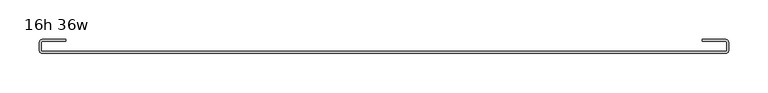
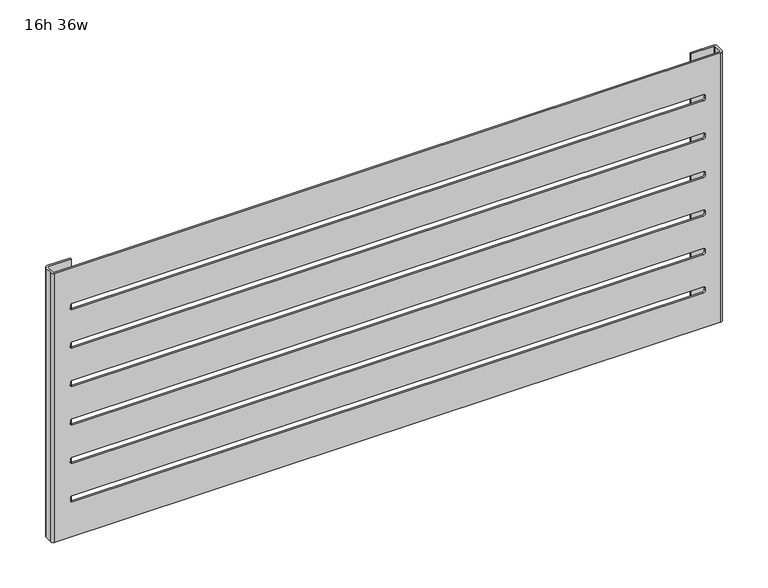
"""IFC4 building model written with IfcOpenShell, lengths in millimetres: furniture geometry, Haworth_BeHold_Accessory_SlatRail : 16h 36w."""

from ifc_helpers import new_model, si_unit, frame, origin, place, context, project, spatial, polyline, circle_curve, source, transform, mapped, element, save
from ifc_brep_helpers import plane_surface, cylinder_surface, revolved_surface, advanced_brep


def furniture_16h_36w_b10e970e(model_context):
    return source(origin(), model_context, "Body", "AdvancedBrep", [
        advanced_brep(
        [(276.0322509, 285.75, 1290.6375), (-589.7505616, 285.75, 1290.6375), (-590.7427491, 286.7421875, 1290.6375), (-590.7427491, 297.4539983, 1290.6375), (-589.7467474, 298.45, 1290.6375), (-559.7828171, 298.45, 1290.6375), (-559.7828171, 300.83125, 1290.6375), (-589.7865641, 300.83125, 1290.6375), (-593.1239991, 297.493815, 1290.6375), (-593.1239991, 286.7421875, 1290.6375), (-589.7505616, 283.36875, 1290.6375), (276.0322509, 283.36875, 1290.6375), (279.4056884, 286.7421875, 1290.6375), (279.4056884, 297.493815, 1290.6375), (276.0682534, 300.83125, 1290.6375), (246.0645065, 300.83125, 1290.6375), (246.0645065, 298.45, 1290.6375), (276.0284367, 298.45, 1290.6375), (277.0244384, 297.4539983, 1290.6375), (277.0244384, 286.7421875, 1290.6375), (276.0322509, 285.75, 920.75), (277.0244384, 286.7421875, 920.75), (277.0244384, 297.4539983, 920.75), (276.0284367, 298.45, 920.75), (246.0645065, 298.45, 920.75), (246.0645065, 300.83125, 920.75), (276.0682534, 300.83125, 920.75), (279.4056884, 297.493815, 920.75), (279.4056884, 286.7421875, 920.75), (276.0322509, 283.36875, 920.75), (-589.7505616, 283.36875, 920.75), (-593.1239991, 286.7421875, 920.75), (-593.1239991, 297.493815, 920.75), (-589.7865641, 300.83125, 920.75), (-559.7828171, 300.83125, 920.75), (-559.7828171, 298.45, 920.75), (-589.7467474, 298.45, 920.75), (-590.7427491, 297.4539983, 920.75), (-590.7427491, 286.7421875, 920.75), (-589.7505616, 285.75, 920.75), (-566.9137772, 283.36875, 1127.1885438), (-569.2950272, 283.36875, 1129.5697938), (-569.2950272, 283.36875, 1133.0622951), (-566.9137772, 283.36875, 1135.4435451), (253.1954665, 283.36875, 1135.4435451), (255.5767165, 283.36875, 1133.0622951), (255.5767165, 283.36875, 1129.5697938), (253.1954665, 283.36875, 1127.1885438), (-566.9137772, 283.36875, 1074.3565443), (-569.2950272, 283.36875, 1076.7377943), (-569.2950272, 283.36875, 1080.2302955), (-566.9137772, 283.36875, 1082.6115455), (253.1954665, 283.36875, 1082.6115455), (255.5767165, 283.36875, 1080.2302955), (255.5767165, 283.36875, 1076.7377943), (253.1954665, 283.36875, 1074.3565443), (-566.9137772, 283.36875, 1021.5245447), (-569.2950272, 283.36875, 1023.9057947), (-569.2950272, 283.36875, 1027.3982959), (-566.9137772, 283.36875, 1029.7795459), (253.1954665, 283.36875, 1029.7795459), (255.5767165, 283.36875, 1027.3982959), (255.5767165, 283.36875, 1023.9057947), (253.1954665, 283.36875, 1021.5245447), (-566.9137772, 283.36875, 968.6925428), (-569.2950272, 283.36875, 971.0737928), (-569.2950272, 283.36875, 974.5662941), (-566.9137772, 283.36875, 976.9475441), (253.1954665, 283.36875, 976.9475441), (255.5767165, 283.36875, 974.5662941), (255.5767165, 283.36875, 971.0737928), (253.1954665, 283.36875, 968.6925428), (-566.9137772, 283.36875, 1180.020548), (-569.2950272, 283.36875, 1182.401798), (-569.2950272, 283.36875, 1185.8942992), (-566.9137772, 283.36875, 1188.2755492), (253.1954665, 283.36875, 1188.2755492), (255.5767165, 283.36875, 1185.8942992), (255.5767165, 283.36875, 1182.401798), (253.1954665, 283.36875, 1180.020548), (-566.9137772, 283.36875, 1232.8525521), (-569.2950272, 283.36875, 1235.2338021), (-569.2950272, 283.36875, 1238.7263033), (-566.9137772, 283.36875, 1241.1075533), (253.1954665, 283.36875, 1241.1075533), (255.5767165, 283.36875, 1238.7263033), (255.5767165, 283.36875, 1235.2338021), (253.1954665, 283.36875, 1232.8525521), (253.1954665, 285.75, 1127.1885438), (255.5767165, 285.75, 1129.5697938), (255.5767165, 285.75, 1133.0622951), (253.1954665, 285.75, 1135.4435451), (-566.9137772, 285.75, 1135.4435451), (-569.2950272, 285.75, 1133.0622951), (-569.2950272, 285.75, 1129.5697938), (-566.9137772, 285.75, 1127.1885438), (253.1954665, 285.75, 1074.3565443), (255.5767165, 285.75, 1076.7377943), (255.5767165, 285.75, 1080.2302955), (253.1954665, 285.75, 1082.6115455), (-566.9137772, 285.75, 1082.6115455), (-569.2950272, 285.75, 1080.2302955), (-569.2950272, 285.75, 1076.7377943), (-566.9137772, 285.75, 1074.3565443), (253.1954665, 285.75, 1021.5245447), (255.5767165, 285.75, 1023.9057947), (255.5767165, 285.75, 1027.3982959), (253.1954665, 285.75, 1029.7795459), (-566.9137772, 285.75, 1029.7795459), (-569.2950272, 285.75, 1027.3982959), (-569.2950272, 285.75, 1023.9057947), (-566.9137772, 285.75, 1021.5245447), (253.1954665, 285.75, 968.6925428), (255.5767165, 285.75, 971.0737928), (255.5767165, 285.75, 974.5662941), (253.1954665, 285.75, 976.9475441), (-566.9137772, 285.75, 976.9475441), (-569.2950272, 285.75, 974.5662941), (-569.2950272, 285.75, 971.0737928), (-566.9137772, 285.75, 968.6925428), (253.1954665, 285.75, 1180.020548), (255.5767165, 285.75, 1182.401798), (255.5767165, 285.75, 1185.8942992), (253.1954665, 285.75, 1188.2755492), (-566.9137772, 285.75, 1188.2755492), (-569.2950272, 285.75, 1185.8942992), (-569.2950272, 285.75, 1182.401798), (-566.9137772, 285.75, 1180.020548), (253.1954665, 285.75, 1232.8525521), (255.5767165, 285.75, 1235.2338021), (255.5767165, 285.75, 1238.7263033), (253.1954665, 285.75, 1241.1075533), (-566.9137772, 285.75, 1241.1075533), (-569.2950272, 285.75, 1238.7263033), (-569.2950272, 285.75, 1235.2338021), (-566.9137772, 285.75, 1232.8525521)],
        [
            (0, 1),
            (1, 2, circle_curve(frame((-589.7505616, 286.7421875, 1290.6375), z_axis=(0.0, 0.0, -1.0), x_axis=(0.0, 1.0, 0.0)), 0.9921875)),
            (2, 3),
            (3, 4, circle_curve(frame((-589.7467474, 297.4539983, 1290.6375), z_axis=(0.0, 0.0, -1.0), x_axis=(0.0, 1.0, 0.0)), 0.9960017)),
            (4, 5),
            (5, 6),
            (6, 7),
            (7, 8, circle_curve(frame((-589.7865641, 297.493815, 1290.6375), z_axis=(0.0, 0.0, 1.0), x_axis=(0.0, 1.0, 0.0)), 3.337435)),
            (8, 9),
            (9, 10, circle_curve(frame((-589.7505616, 286.7421875, 1290.6375), z_axis=(0.0, 0.0, 1.0), x_axis=(0.0, 1.0, 0.0)), 3.3734375)),
            (10, 11),
            (11, 12, circle_curve(frame((276.0322509, 286.7421875, 1290.6375), z_axis=(0.0, 0.0, 1.0), x_axis=(0.0, 1.0, 0.0)), 3.3734375)),
            (12, 13),
            (13, 14, circle_curve(frame((276.0682534, 297.493815, 1290.6375), z_axis=(0.0, 0.0, 1.0), x_axis=(0.0, 1.0, 0.0)), 3.337435)),
            (14, 15),
            (15, 16),
            (16, 17),
            (17, 18, circle_curve(frame((276.0284367, 297.4539983, 1290.6375), z_axis=(0.0, 0.0, -1.0), x_axis=(0.0, 1.0, 0.0)), 0.9960017)),
            (18, 19),
            (19, 0, circle_curve(frame((276.0322509, 286.7421875, 1290.6375), z_axis=(0.0, 0.0, -1.0), x_axis=(0.0, 1.0, 0.0)), 0.9921875)),
            (20, 21, circle_curve(frame((276.0322509, 286.7421875, 920.75), z_axis=(0.0, 0.0, 1.0), x_axis=(0.0, 1.0, 0.0)), 0.9921875)),
            (21, 22),
            (22, 23, circle_curve(frame((276.0284367, 297.4539983, 920.75), z_axis=(0.0, 0.0, 1.0), x_axis=(0.0, 1.0, 0.0)), 0.9960017)),
            (23, 24),
            (24, 25),
            (25, 26),
            (26, 27, circle_curve(frame((276.0682534, 297.493815, 920.75), z_axis=(0.0, 0.0, -1.0), x_axis=(0.0, 1.0, 0.0)), 3.337435)),
            (27, 28),
            (28, 29, circle_curve(frame((276.0322509, 286.7421875, 920.75), z_axis=(0.0, 0.0, -1.0), x_axis=(0.0, 1.0, 0.0)), 3.3734375)),
            (29, 30),
            (30, 31, circle_curve(frame((-589.7505616, 286.7421875, 920.75), z_axis=(0.0, 0.0, -1.0), x_axis=(0.0, 1.0, 0.0)), 3.3734375)),
            (31, 32),
            (32, 33, circle_curve(frame((-589.7865641, 297.493815, 920.75), z_axis=(0.0, 0.0, -1.0), x_axis=(0.0, 1.0, 0.0)), 3.337435)),
            (33, 34),
            (34, 35),
            (35, 36),
            (36, 37, circle_curve(frame((-589.7467474, 297.4539983, 920.75), z_axis=(0.0, 0.0, 1.0), x_axis=(0.0, 1.0, 0.0)), 0.9960017)),
            (37, 38),
            (38, 39, circle_curve(frame((-589.7505616, 286.7421875, 920.75), z_axis=(0.0, 0.0, 1.0), x_axis=(0.0, 1.0, 0.0)), 0.9921875)),
            (39, 20),
            (19, 21),
            (20, 0),
            (18, 22),
            (17, 23),
            (16, 24),
            (15, 25),
            (14, 26),
            (13, 27),
            (12, 28),
            (11, 29),
            (10, 30),
            (40, 41, circle_curve(frame((-566.9137772, 283.36875, 1129.5697938), z_axis=(0.0, 1.0, 0.0), x_axis=(1.0, 0.0, 0.0)), 2.38125)),
            (41, 42),
            (42, 43, circle_curve(frame((-566.9137772, 283.36875, 1133.0622951), z_axis=(0.0, 1.0, 0.0), x_axis=(1.0, 0.0, 0.0)), 2.38125)),
            (43, 44),
            (44, 45, circle_curve(frame((253.1954665, 283.36875, 1133.0622951), z_axis=(0.0, 1.0, 0.0), x_axis=(1.0, 0.0, 0.0)), 2.38125)),
            (45, 46),
            (46, 47, circle_curve(frame((253.1954665, 283.36875, 1129.5697938), z_axis=(0.0, 1.0, 0.0), x_axis=(1.0, 0.0, 0.0)), 2.38125)),
            (47, 40),
            (48, 49, circle_curve(frame((-566.9137772, 283.36875, 1076.7377943), z_axis=(0.0, 1.0, 0.0), x_axis=(1.0, 0.0, 0.0)), 2.38125)),
            (49, 50),
            (50, 51, circle_curve(frame((-566.9137772, 283.36875, 1080.2302955), z_axis=(0.0, 1.0, 0.0), x_axis=(1.0, 0.0, 0.0)), 2.38125)),
            (51, 52),
            (52, 53, circle_curve(frame((253.1954665, 283.36875, 1080.2302955), z_axis=(0.0, 1.0, 0.0), x_axis=(1.0, 0.0, 0.0)), 2.38125)),
            (53, 54),
            (54, 55, circle_curve(frame((253.1954665, 283.36875, 1076.7377943), z_axis=(0.0, 1.0, 0.0), x_axis=(1.0, 0.0, 0.0)), 2.38125)),
            (55, 48),
            (56, 57, circle_curve(frame((-566.9137772, 283.36875, 1023.9057947), z_axis=(0.0, 1.0, 0.0), x_axis=(1.0, 0.0, 0.0)), 2.38125)),
            (57, 58),
            (58, 59, circle_curve(frame((-566.9137772, 283.36875, 1027.3982959), z_axis=(0.0, 1.0, 0.0), x_axis=(1.0, 0.0, 0.0)), 2.38125)),
            (59, 60),
            (60, 61, circle_curve(frame((253.1954665, 283.36875, 1027.3982959), z_axis=(0.0, 1.0, 0.0), x_axis=(1.0, 0.0, 0.0)), 2.38125)),
            (61, 62),
            (62, 63, circle_curve(frame((253.1954665, 283.36875, 1023.9057947), z_axis=(0.0, 1.0, 0.0), x_axis=(1.0, 0.0, 0.0)), 2.38125)),
            (63, 56),
            (64, 65, circle_curve(frame((-566.9137772, 283.36875, 971.0737928), z_axis=(0.0, 1.0, 0.0), x_axis=(1.0, 0.0, 0.0)), 2.38125)),
            (65, 66),
            (66, 67, circle_curve(frame((-566.9137772, 283.36875, 974.5662941), z_axis=(0.0, 1.0, 0.0), x_axis=(1.0, 0.0, 0.0)), 2.38125)),
            (67, 68),
            (68, 69, circle_curve(frame((253.1954665, 283.36875, 974.5662941), z_axis=(0.0, 1.0, 0.0), x_axis=(1.0, 0.0, 0.0)), 2.38125)),
            (69, 70),
            (70, 71, circle_curve(frame((253.1954665, 283.36875, 971.0737928), z_axis=(0.0, 1.0, 0.0), x_axis=(1.0, 0.0, 0.0)), 2.38125)),
            (71, 64),
            (72, 73, circle_curve(frame((-566.9137772, 283.36875, 1182.401798), z_axis=(0.0, 1.0, 0.0), x_axis=(1.0, 0.0, 0.0)), 2.38125)),
            (73, 74),
            (74, 75, circle_curve(frame((-566.9137772, 283.36875, 1185.8942992), z_axis=(0.0, 1.0, 0.0), x_axis=(1.0, 0.0, 0.0)), 2.38125)),
            (75, 76),
            (76, 77, circle_curve(frame((253.1954665, 283.36875, 1185.8942992), z_axis=(0.0, 1.0, 0.0), x_axis=(1.0, 0.0, 0.0)), 2.38125)),
            (77, 78),
            (78, 79, circle_curve(frame((253.1954665, 283.36875, 1182.401798), z_axis=(0.0, 1.0, 0.0), x_axis=(1.0, 0.0, 0.0)), 2.38125)),
            (79, 72),
            (80, 81, circle_curve(frame((-566.9137772, 283.36875, 1235.2338021), z_axis=(0.0, 1.0, 0.0), x_axis=(1.0, 0.0, 0.0)), 2.38125)),
            (81, 82),
            (82, 83, circle_curve(frame((-566.9137772, 283.36875, 1238.7263033), z_axis=(0.0, 1.0, 0.0), x_axis=(1.0, 0.0, 0.0)), 2.38125)),
            (83, 84),
            (84, 85, circle_curve(frame((253.1954665, 283.36875, 1238.7263033), z_axis=(0.0, 1.0, 0.0), x_axis=(1.0, 0.0, 0.0)), 2.38125)),
            (85, 86),
            (86, 87, circle_curve(frame((253.1954665, 283.36875, 1235.2338021), z_axis=(0.0, 1.0, 0.0), x_axis=(1.0, 0.0, 0.0)), 2.38125)),
            (87, 80),
            (9, 31),
            (8, 32),
            (7, 33),
            (6, 34),
            (5, 35),
            (4, 36),
            (3, 37),
            (2, 38),
            (1, 39),
            (88, 89, circle_curve(frame((253.1954665, 285.75, 1129.5697938), z_axis=(0.0, -1.0, 0.0), x_axis=(1.0, 0.0, 0.0)), 2.38125)),
            (89, 90),
            (90, 91, circle_curve(frame((253.1954665, 285.75, 1133.0622951), z_axis=(0.0, -1.0, 0.0), x_axis=(1.0, 0.0, 0.0)), 2.38125)),
            (91, 92),
            (92, 93, circle_curve(frame((-566.9137772, 285.75, 1133.0622951), z_axis=(0.0, -1.0, 0.0), x_axis=(1.0, 0.0, 0.0)), 2.38125)),
            (93, 94),
            (94, 95, circle_curve(frame((-566.9137772, 285.75, 1129.5697938), z_axis=(0.0, -1.0, 0.0), x_axis=(1.0, 0.0, 0.0)), 2.38125)),
            (95, 88),
            (96, 97, circle_curve(frame((253.1954665, 285.75, 1076.7377943), z_axis=(0.0, -1.0, 0.0), x_axis=(1.0, 0.0, 0.0)), 2.38125)),
            (97, 98),
            (98, 99, circle_curve(frame((253.1954665, 285.75, 1080.2302955), z_axis=(0.0, -1.0, 0.0), x_axis=(1.0, 0.0, 0.0)), 2.38125)),
            (99, 100),
            (100, 101, circle_curve(frame((-566.9137772, 285.75, 1080.2302955), z_axis=(0.0, -1.0, 0.0), x_axis=(1.0, 0.0, 0.0)), 2.38125)),
            (101, 102),
            (102, 103, circle_curve(frame((-566.9137772, 285.75, 1076.7377943), z_axis=(0.0, -1.0, 0.0), x_axis=(1.0, 0.0, 0.0)), 2.38125)),
            (103, 96),
            (104, 105, circle_curve(frame((253.1954665, 285.75, 1023.9057947), z_axis=(0.0, -1.0, 0.0), x_axis=(1.0, 0.0, 0.0)), 2.38125)),
            (105, 106),
            (106, 107, circle_curve(frame((253.1954665, 285.75, 1027.3982959), z_axis=(0.0, -1.0, 0.0), x_axis=(1.0, 0.0, 0.0)), 2.38125)),
            (107, 108),
            (108, 109, circle_curve(frame((-566.9137772, 285.75, 1027.3982959), z_axis=(0.0, -1.0, 0.0), x_axis=(1.0, 0.0, 0.0)), 2.38125)),
            (109, 110),
            (110, 111, circle_curve(frame((-566.9137772, 285.75, 1023.9057947), z_axis=(0.0, -1.0, 0.0), x_axis=(1.0, 0.0, 0.0)), 2.38125)),
            (111, 104),
            (112, 113, circle_curve(frame((253.1954665, 285.75, 971.0737928), z_axis=(0.0, -1.0, 0.0), x_axis=(1.0, 0.0, 0.0)), 2.38125)),
            (113, 114),
            (114, 115, circle_curve(frame((253.1954665, 285.75, 974.5662941), z_axis=(0.0, -1.0, 0.0), x_axis=(1.0, 0.0, 0.0)), 2.38125)),
            (115, 116),
            (116, 117, circle_curve(frame((-566.9137772, 285.75, 974.5662941), z_axis=(0.0, -1.0, 0.0), x_axis=(1.0, 0.0, 0.0)), 2.38125)),
            (117, 118),
            (118, 119, circle_curve(frame((-566.9137772, 285.75, 971.0737928), z_axis=(0.0, -1.0, 0.0), x_axis=(1.0, 0.0, 0.0)), 2.38125)),
            (119, 112),
            (120, 121, circle_curve(frame((253.1954665, 285.75, 1182.401798), z_axis=(0.0, -1.0, 0.0), x_axis=(1.0, 0.0, 0.0)), 2.38125)),
            (121, 122),
            (122, 123, circle_curve(frame((253.1954665, 285.75, 1185.8942992), z_axis=(0.0, -1.0, 0.0), x_axis=(1.0, 0.0, 0.0)), 2.38125)),
            (123, 124),
            (124, 125, circle_curve(frame((-566.9137772, 285.75, 1185.8942992), z_axis=(0.0, -1.0, 0.0), x_axis=(1.0, 0.0, 0.0)), 2.38125)),
            (125, 126),
            (126, 127, circle_curve(frame((-566.9137772, 285.75, 1182.401798), z_axis=(0.0, -1.0, 0.0), x_axis=(1.0, 0.0, 0.0)), 2.38125)),
            (127, 120),
            (128, 129, circle_curve(frame((253.1954665, 285.75, 1235.2338021), z_axis=(0.0, -1.0, 0.0), x_axis=(1.0, 0.0, 0.0)), 2.38125)),
            (129, 130),
            (130, 131, circle_curve(frame((253.1954665, 285.75, 1238.7263033), z_axis=(0.0, -1.0, 0.0), x_axis=(1.0, 0.0, 0.0)), 2.38125)),
            (131, 132),
            (132, 133, circle_curve(frame((-566.9137772, 285.75, 1238.7263033), z_axis=(0.0, -1.0, 0.0), x_axis=(1.0, 0.0, 0.0)), 2.38125)),
            (133, 134),
            (134, 135, circle_curve(frame((-566.9137772, 285.75, 1235.2338021), z_axis=(0.0, -1.0, 0.0), x_axis=(1.0, 0.0, 0.0)), 2.38125)),
            (135, 128),
            (95, 40),
            (47, 88),
            (94, 41),
            (93, 42),
            (92, 43),
            (91, 44),
            (90, 45),
            (89, 46),
            (103, 48),
            (55, 96),
            (102, 49),
            (101, 50),
            (100, 51),
            (99, 52),
            (98, 53),
            (97, 54),
            (111, 56),
            (63, 104),
            (110, 57),
            (109, 58),
            (108, 59),
            (107, 60),
            (106, 61),
            (105, 62),
            (119, 64),
            (71, 112),
            (118, 65),
            (117, 66),
            (116, 67),
            (115, 68),
            (114, 69),
            (113, 70),
            (127, 72),
            (79, 120),
            (126, 73),
            (125, 74),
            (124, 75),
            (123, 76),
            (122, 77),
            (121, 78),
            (135, 80),
            (87, 128),
            (134, 81),
            (133, 82),
            (132, 83),
            (131, 84),
            (130, 85),
            (129, 86),
        ],
        [
            plane_surface(frame((-156.8591553, 292.1, 1290.6375), z_axis=(0.0, 0.0, 1.0), x_axis=(0.0, 1.0, 0.0))),
            plane_surface(frame((-156.8591553, 292.1, 920.75), z_axis=(0.0, 0.0, -1.0), x_axis=(0.0, 1.0, 0.0))),
            revolved_surface(polyline([(276.0322509, 287.734375, 920.75), (276.0322509, 287.734375, 1290.6375)]), (276.0322509, 286.7421875, 1290.6375), (0.0, 0.0, -1.0)),
            plane_surface(frame((277.0244384, 286.7421875, 1290.6375), z_axis=(-1.0, 0.0, 0.0), x_axis=(0.0, 0.0, -1.0))),
            revolved_surface(polyline([(276.0284367, 298.45000000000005, 920.75), (276.0284367, 298.45000000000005, 1290.6375)]), (276.0284367, 297.4539983, 1290.6375), (0.0, 0.0, -1.0)),
            plane_surface(frame((276.0284367, 298.45, 1290.6375), z_axis=(0.0, -1.0, 0.0), x_axis=(0.0, 0.0, -1.0))),
            plane_surface(frame((246.0645065, 298.45, 1290.6375), z_axis=(-1.0, 0.0, 0.0), x_axis=(0.0, 0.0, -1.0))),
            plane_surface(frame((246.0645065, 300.83125, 1290.6375), z_axis=(0.0, 1.0, 0.0), x_axis=(0.0, 0.0, -1.0))),
            cylinder_surface(frame((276.0682534, 297.493815, 1290.6375), z_axis=(0.0, 0.0, 1.0), x_axis=(0.0, 1.0, 0.0)), 3.337435),
            plane_surface(frame((279.4056884, 297.493815, 1290.6375), z_axis=(1.0, 0.0, 0.0), x_axis=(0.0, 0.0, -1.0))),
            cylinder_surface(frame((276.0322509, 286.7421875, 1290.6375), z_axis=(0.0, 0.0, 1.0), x_axis=(0.0, 1.0, 0.0)), 3.3734375),
            plane_surface(frame((276.0322509, 283.36875, 1290.6375), z_axis=(0.0, -1.0, 0.0), x_axis=(0.0, 0.0, -1.0))),
            cylinder_surface(frame((-589.7505616, 286.7421875, 1290.6375), z_axis=(0.0, 0.0, 1.0), x_axis=(0.0, 1.0, 0.0)), 3.3734375),
            plane_surface(frame((-593.1239991, 286.7421875, 1290.6375), z_axis=(-1.0, 0.0, 0.0), x_axis=(0.0, 0.0, -1.0))),
            cylinder_surface(frame((-589.7865641, 297.493815, 1290.6375), z_axis=(0.0, 0.0, 1.0), x_axis=(0.0, 1.0, 0.0)), 3.337435),
            plane_surface(frame((-589.7865641, 300.83125, 1290.6375), z_axis=(0.0, 1.0, 0.0), x_axis=(0.0, 0.0, -1.0))),
            plane_surface(frame((-559.7828171, 300.83125, 1290.6375), z_axis=(1.0, 0.0, 0.0), x_axis=(0.0, 0.0, -1.0))),
            plane_surface(frame((-559.7828171, 298.45, 1290.6375), z_axis=(0.0, -1.0, 0.0), x_axis=(0.0, 0.0, -1.0))),
            revolved_surface(polyline([(-589.7467474, 298.45000000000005, 920.75), (-589.7467474, 298.45000000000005, 1290.6375)]), (-589.7467474, 297.4539983, 1290.6375), (0.0, 0.0, -1.0)),
            plane_surface(frame((-590.7427491, 297.4539983, 1290.6375), z_axis=(1.0, 0.0, 0.0), x_axis=(0.0, 0.0, -1.0))),
            revolved_surface(polyline([(-589.7505616, 287.734375, 920.75), (-589.7505616, 287.734375, 1290.6375)]), (-589.7505616, 286.7421875, 1290.6375), (0.0, 0.0, -1.0)),
            plane_surface(frame((-589.7505616, 285.75, 1290.6375), z_axis=(0.0, 1.0, 0.0), x_axis=(0.0, 0.0, -1.0))),
            plane_surface(frame((253.1954665, 266.7, 1127.1885438), z_axis=(0.0, 0.0, 1.0), x_axis=(0.0, 1.0, 0.0))),
            revolved_surface(polyline([(-564.5325272, 283.36875, 1129.5697938), (-564.5325272, 285.75, 1129.5697938)]), (-566.9137772, 266.7, 1129.5697938), (0.0, -1.0, 0.0)),
            plane_surface(frame((-569.2950272, 266.7, 1129.5697938), z_axis=(1.0, 0.0, 0.0), x_axis=(0.0, 1.0, 0.0))),
            revolved_surface(polyline([(-564.5325272, 283.36875, 1133.0622951), (-564.5325272, 285.75, 1133.0622951)]), (-566.9137772, 266.7, 1133.0622951), (0.0, -1.0, 0.0)),
            plane_surface(frame((-566.9137772, 266.7, 1135.4435451), z_axis=(0.0, 0.0, -1.0), x_axis=(0.0, 1.0, 0.0))),
            revolved_surface(polyline([(255.5767165, 283.36875, 1133.0622951), (255.5767165, 285.75, 1133.0622951)]), (253.1954665, 266.7, 1133.0622951), (0.0, -1.0, 0.0)),
            plane_surface(frame((255.5767165, 266.7, 1133.0622951), z_axis=(-1.0, 0.0, 0.0), x_axis=(0.0, 1.0, 0.0))),
            revolved_surface(polyline([(255.5767165, 283.36875, 1129.5697938), (255.5767165, 285.75, 1129.5697938)]), (253.1954665, 266.7, 1129.5697938), (0.0, -1.0, 0.0)),
            plane_surface(frame((253.1954665, 266.7, 1074.3565443), z_axis=(0.0, 0.0, 1.0), x_axis=(0.0, 1.0, 0.0))),
            revolved_surface(polyline([(-564.5325272, 283.36875, 1076.7377943), (-564.5325272, 285.75, 1076.7377943)]), (-566.9137772, 266.7, 1076.7377943), (0.0, -1.0, 0.0)),
            plane_surface(frame((-569.2950272, 266.7, 1076.7377943), z_axis=(1.0, 0.0, 0.0), x_axis=(0.0, 1.0, 0.0))),
            revolved_surface(polyline([(-564.5325272, 283.36875, 1080.2302955), (-564.5325272, 285.75, 1080.2302955)]), (-566.9137772, 266.7, 1080.2302955), (0.0, -1.0, 0.0)),
            plane_surface(frame((-566.9137772, 266.7, 1082.6115455), z_axis=(0.0, 0.0, -1.0), x_axis=(0.0, 1.0, 0.0))),
            revolved_surface(polyline([(255.5767165, 283.36875, 1080.2302955), (255.5767165, 285.75, 1080.2302955)]), (253.1954665, 266.7, 1080.2302955), (0.0, -1.0, 0.0)),
            plane_surface(frame((255.5767165, 266.7, 1080.2302955), z_axis=(-1.0, 0.0, 0.0), x_axis=(0.0, 1.0, 0.0))),
            revolved_surface(polyline([(255.5767165, 283.36875, 1076.7377943), (255.5767165, 285.75, 1076.7377943)]), (253.1954665, 266.7, 1076.7377943), (0.0, -1.0, 0.0)),
            plane_surface(frame((253.1954665, 266.7, 1021.5245447), z_axis=(0.0, 0.0, 1.0), x_axis=(0.0, 1.0, 0.0))),
            revolved_surface(polyline([(-564.5325272, 283.36875, 1023.9057947), (-564.5325272, 285.75, 1023.9057947)]), (-566.9137772, 266.7, 1023.9057947), (0.0, -1.0, 0.0)),
            plane_surface(frame((-569.2950272, 266.7, 1023.9057947), z_axis=(1.0, 0.0, 0.0), x_axis=(0.0, 1.0, 0.0))),
            revolved_surface(polyline([(-564.5325272, 283.36875, 1027.3982959), (-564.5325272, 285.75, 1027.3982959)]), (-566.9137772, 266.7, 1027.3982959), (0.0, -1.0, 0.0)),
            plane_surface(frame((-566.9137772, 266.7, 1029.7795459), z_axis=(0.0, 0.0, -1.0), x_axis=(0.0, 1.0, 0.0))),
            revolved_surface(polyline([(255.5767165, 283.36875, 1027.3982959), (255.5767165, 285.75, 1027.3982959)]), (253.1954665, 266.7, 1027.3982959), (0.0, -1.0, 0.0)),
            plane_surface(frame((255.5767165, 266.7, 1027.3982959), z_axis=(-1.0, 0.0, 0.0), x_axis=(0.0, 1.0, 0.0))),
            revolved_surface(polyline([(255.5767165, 283.36875, 1023.9057947), (255.5767165, 285.75, 1023.9057947)]), (253.1954665, 266.7, 1023.9057947), (0.0, -1.0, 0.0)),
            plane_surface(frame((253.1954665, 266.7, 968.6925428), z_axis=(0.0, 0.0, 1.0), x_axis=(0.0, 1.0, 0.0))),
            revolved_surface(polyline([(-564.5325272, 283.36875, 971.0737928), (-564.5325272, 285.75, 971.0737928)]), (-566.9137772, 266.7, 971.0737928), (0.0, -1.0, 0.0)),
            plane_surface(frame((-569.2950272, 266.7, 971.0737928), z_axis=(1.0, 0.0, 0.0), x_axis=(0.0, 1.0, 0.0))),
            revolved_surface(polyline([(-564.5325272, 283.36875, 974.5662941), (-564.5325272, 285.75, 974.5662941)]), (-566.9137772, 266.7, 974.5662941), (0.0, -1.0, 0.0)),
            plane_surface(frame((-566.9137772, 266.7, 976.9475441), z_axis=(0.0, 0.0, -1.0), x_axis=(0.0, 1.0, 0.0))),
            revolved_surface(polyline([(255.5767165, 283.36875, 974.5662941), (255.5767165, 285.75, 974.5662941)]), (253.1954665, 266.7, 974.5662941), (0.0, -1.0, 0.0)),
            plane_surface(frame((255.5767165, 266.7, 974.5662941), z_axis=(-1.0, 0.0, 0.0), x_axis=(0.0, 1.0, 0.0))),
            revolved_surface(polyline([(255.5767165, 283.36875, 971.0737928), (255.5767165, 285.75, 971.0737928)]), (253.1954665, 266.7, 971.0737928), (0.0, -1.0, 0.0)),
            plane_surface(frame((253.1954665, 266.7, 1180.020548), z_axis=(0.0, 0.0, 1.0), x_axis=(0.0, 1.0, 0.0))),
            revolved_surface(polyline([(-564.5325272, 283.36875, 1182.401798), (-564.5325272, 285.75, 1182.401798)]), (-566.9137772, 266.7, 1182.401798), (0.0, -1.0, 0.0)),
            plane_surface(frame((-569.2950272, 266.7, 1182.401798), z_axis=(1.0, 0.0, 0.0), x_axis=(0.0, 1.0, 0.0))),
            revolved_surface(polyline([(-564.5325272, 283.36875, 1185.8942992), (-564.5325272, 285.75, 1185.8942992)]), (-566.9137772, 266.7, 1185.8942992), (0.0, -1.0, 0.0)),
            plane_surface(frame((-566.9137772, 266.7, 1188.2755492), z_axis=(0.0, 0.0, -1.0), x_axis=(0.0, 1.0, 0.0))),
            revolved_surface(polyline([(255.5767165, 283.36875, 1185.8942992), (255.5767165, 285.75, 1185.8942992)]), (253.1954665, 266.7, 1185.8942992), (0.0, -1.0, 0.0)),
            plane_surface(frame((255.5767165, 266.7, 1185.8942992), z_axis=(-1.0, 0.0, 0.0), x_axis=(0.0, 1.0, 0.0))),
            revolved_surface(polyline([(255.5767165, 283.36875, 1182.401798), (255.5767165, 285.75, 1182.401798)]), (253.1954665, 266.7, 1182.401798), (0.0, -1.0, 0.0)),
            plane_surface(frame((253.1954665, 266.7, 1232.8525521), z_axis=(0.0, 0.0, 1.0), x_axis=(0.0, 1.0, 0.0))),
            revolved_surface(polyline([(-564.5325272, 283.36875, 1235.2338021), (-564.5325272, 285.75, 1235.2338021)]), (-566.9137772, 266.7, 1235.2338021), (0.0, -1.0, 0.0)),
            plane_surface(frame((-569.2950272, 266.7, 1235.2338021), z_axis=(1.0, 0.0, 0.0), x_axis=(0.0, 1.0, 0.0))),
            revolved_surface(polyline([(-564.5325272, 283.36875, 1238.7263033), (-564.5325272, 285.75, 1238.7263033)]), (-566.9137772, 266.7, 1238.7263033), (0.0, -1.0, 0.0)),
            plane_surface(frame((-566.9137772, 266.7, 1241.1075533), z_axis=(0.0, 0.0, -1.0), x_axis=(0.0, 1.0, 0.0))),
            revolved_surface(polyline([(255.5767165, 283.36875, 1238.7263033), (255.5767165, 285.75, 1238.7263033)]), (253.1954665, 266.7, 1238.7263033), (0.0, -1.0, 0.0)),
            plane_surface(frame((255.5767165, 266.7, 1238.7263033), z_axis=(-1.0, 0.0, 0.0), x_axis=(0.0, 1.0, 0.0))),
            revolved_surface(polyline([(255.5767165, 283.36875, 1235.2338021), (255.5767165, 285.75, 1235.2338021)]), (253.1954665, 266.7, 1235.2338021), (0.0, -1.0, 0.0)),
        ],
        [
            (0, [[1, 2, 3, 4, 5, 6, 7, 8, 9, 10, 11, 12, 13, 14, 15, 16, 17, 18, 19, 20]]),
            (1, [[21, 22, 23, 24, 25, 26, 27, 28, 29, 30, 31, 32, 33, 34, 35, 36, 37, 38, 39, 40]]),
            (2, [[41, -21, 42, -20]]),
            (3, [[43, -22, -41, -19]]),
            (4, [[44, -23, -43, -18]]),
            (5, [[45, -24, -44, -17]]),
            (6, [[46, -25, -45, -16]]),
            (7, [[47, -26, -46, -15]]),
            (8, [[48, -27, -47, -14]]),
            (9, [[49, -28, -48, -13]]),
            (10, [[50, -29, -49, -12]]),
            (11, [[51, -30, -50, -11], [52, 53, 54, 55, 56, 57, 58, 59], [60, 61, 62, 63, 64, 65, 66, 67], [68, 69, 70, 71, 72, 73, 74, 75], [76, 77, 78, 79, 80, 81, 82, 83], [84, 85, 86, 87, 88, 89, 90, 91], [92, 93, 94, 95, 96, 97, 98, 99]]),
            (12, [[100, -31, -51, -10]]),
            (13, [[101, -32, -100, -9]]),
            (14, [[102, -33, -101, -8]]),
            (15, [[103, -34, -102, -7]]),
            (16, [[104, -35, -103, -6]]),
            (17, [[105, -36, -104, -5]]),
            (18, [[106, -37, -105, -4]]),
            (19, [[107, -38, -106, -3]]),
            (20, [[108, -39, -107, -2]]),
            (21, [[-42, -40, -108, -1], [109, 110, 111, 112, 113, 114, 115, 116], [117, 118, 119, 120, 121, 122, 123, 124], [125, 126, 127, 128, 129, 130, 131, 132], [133, 134, 135, 136, 137, 138, 139, 140], [141, 142, 143, 144, 145, 146, 147, 148], [149, 150, 151, 152, 153, 154, 155, 156]]),
            (22, [[-116, 157, -59, 158]]),
            (23, [[-115, 159, -52, -157]]),
            (24, [[-114, 160, -53, -159]]),
            (25, [[-113, 161, -54, -160]]),
            (26, [[-112, 162, -55, -161]]),
            (27, [[-111, 163, -56, -162]]),
            (28, [[-110, 164, -57, -163]]),
            (29, [[-58, -164, -109, -158]]),
            (30, [[-124, 165, -67, 166]]),
            (31, [[-123, 167, -60, -165]]),
            (32, [[-122, 168, -61, -167]]),
            (33, [[-121, 169, -62, -168]]),
            (34, [[-120, 170, -63, -169]]),
            (35, [[-119, 171, -64, -170]]),
            (36, [[-118, 172, -65, -171]]),
            (37, [[-66, -172, -117, -166]]),
            (38, [[-132, 173, -75, 174]]),
            (39, [[-131, 175, -68, -173]]),
            (40, [[-130, 176, -69, -175]]),
            (41, [[-129, 177, -70, -176]]),
            (42, [[-128, 178, -71, -177]]),
            (43, [[-127, 179, -72, -178]]),
            (44, [[-126, 180, -73, -179]]),
            (45, [[-74, -180, -125, -174]]),
            (46, [[-140, 181, -83, 182]]),
            (47, [[-139, 183, -76, -181]]),
            (48, [[-138, 184, -77, -183]]),
            (49, [[-137, 185, -78, -184]]),
            (50, [[-136, 186, -79, -185]]),
            (51, [[-135, 187, -80, -186]]),
            (52, [[-134, 188, -81, -187]]),
            (53, [[-82, -188, -133, -182]]),
            (54, [[-148, 189, -91, 190]]),
            (55, [[-147, 191, -84, -189]]),
            (56, [[-146, 192, -85, -191]]),
            (57, [[-145, 193, -86, -192]]),
            (58, [[-144, 194, -87, -193]]),
            (59, [[-143, 195, -88, -194]]),
            (60, [[-142, 196, -89, -195]]),
            (61, [[-90, -196, -141, -190]]),
            (62, [[-156, 197, -99, 198]]),
            (63, [[-155, 199, -92, -197]]),
            (64, [[-154, 200, -93, -199]]),
            (65, [[-153, 201, -94, -200]]),
            (66, [[-152, 202, -95, -201]]),
            (67, [[-151, 203, -96, -202]]),
            (68, [[-150, 204, -97, -203]]),
            (69, [[-98, -204, -149, -198]]),
        ],
    ),
    ])


if __name__ == "__main__":
    model = new_model("IFC4")
    model_context = context("Model", 3, world=origin())
    ifc_project = project(units=[si_unit("LENGTHUNIT", "METRE", prefix="MILLI")], contexts=[model_context])
    site = spatial("IfcSite", under=ifc_project)
    building = spatial("IfcBuilding", under=site)
    placement = place(None, origin())
    furniture_16h_36w_shape = furniture_16h_36w_b10e970e(model_context)
    element("IfcFurniture", 1, ObjectType="Haworth_BeHold_Accessory_SlatRail : 16h 36w", at=placement, inside=building, context=model_context, shape_type="MappedRepresentation", body=[
        mapped(furniture_16h_36w_shape, transform((0.0, 0.0, 0.0), x_axis=(1.0, 0.0, 0.0), y_axis=(0.0, 1.0, 0.0), z_axis=(0.0, 0.0, 1.0))),
    ])
    save(model, "model.ifc")
